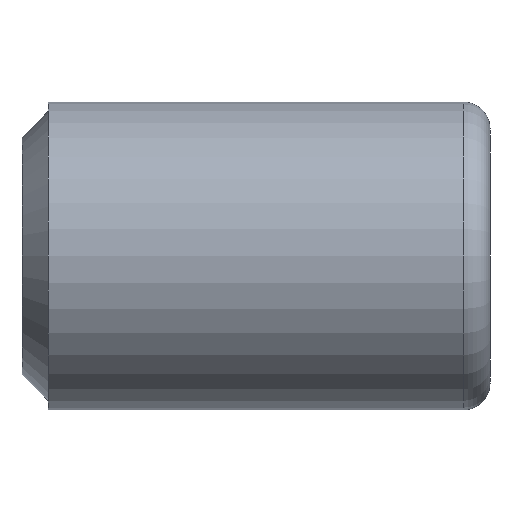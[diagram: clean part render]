
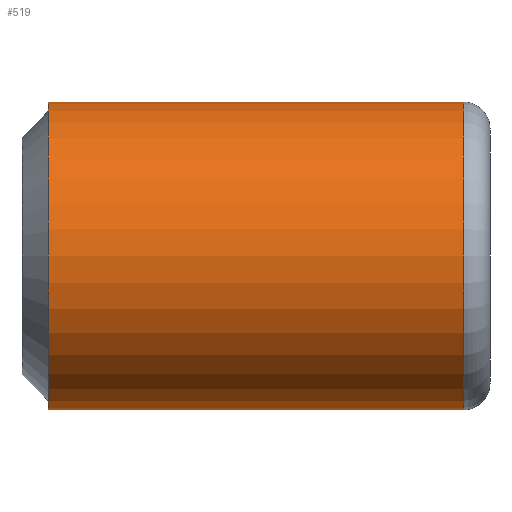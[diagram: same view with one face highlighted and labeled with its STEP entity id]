
A CAD part, front view. The second image highlights one B-rep face of the part: STEP entity #519.
In plain terms, the highlighted cylindrical face has radius 11.087 mm (diameter 22.174 mm), a partial arc.
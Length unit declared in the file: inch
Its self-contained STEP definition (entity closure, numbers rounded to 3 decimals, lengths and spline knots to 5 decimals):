
#12 = DIRECTION ( 'NONE',  ( 0., 0., 1. ) ) ;
#14 = LINE ( 'NONE', #816, #753 ) ;
#31 = CYLINDRICAL_SURFACE ( 'NONE', #159, 0.4365 ) ;
#70 = VERTEX_POINT ( 'NONE', #590 ) ;
#82 = EDGE_CURVE ( 'NONE', #70, #650, #918, .T. ) ;
#91 = EDGE_CURVE ( 'NONE', #209, #650, #14, .T. ) ;
#114 = CARTESIAN_POINT ( 'NONE',  ( 0., 0., -0.4365 ) ) ;
#159 = AXIS2_PLACEMENT_3D ( 'NONE', #314, #682, #917 ) ;
#209 = VERTEX_POINT ( 'NONE', #495 ) ;
#212 = ORIENTED_EDGE ( 'NONE', *, *, #82, .F. ) ;
#233 = DIRECTION ( 'NONE',  ( -1., 0., 0. ) ) ;
#248 = DIRECTION ( 'NONE',  ( -1., 0., 0. ) ) ;
#262 = AXIS2_PLACEMENT_3D ( 'NONE', #331, #410, #12 ) ;
#307 = CARTESIAN_POINT ( 'NONE',  ( 0.07474, 0., 0. ) ) ;
#314 = CARTESIAN_POINT ( 'NONE',  ( 0., 0., 0. ) ) ;
#316 = LINE ( 'NONE', #114, #477 ) ;
#331 = CARTESIAN_POINT ( 'NONE',  ( 1.25174, 0., 0. ) ) ;
#349 = EDGE_CURVE ( 'NONE', #418, #209, #734, .T. ) ;
#410 = DIRECTION ( 'NONE',  ( -1., 0., 0. ) ) ;
#418 = VERTEX_POINT ( 'NONE', #568 ) ;
#429 = CARTESIAN_POINT ( 'NONE',  ( 0.07474, 0., 0.4365 ) ) ;
#442 = ORIENTED_EDGE ( 'NONE', *, *, #349, .T. ) ;
#477 = VECTOR ( 'NONE', #604, 39.37008 ) ;
#495 = CARTESIAN_POINT ( 'NONE',  ( 1.25174, 0., 0.4365 ) ) ;
#516 = ORIENTED_EDGE ( 'NONE', *, *, #882, .F. ) ;
#519 = ADVANCED_FACE ( 'NONE', ( #621 ), #31, .T. ) ;
#568 = CARTESIAN_POINT ( 'NONE',  ( 1.25174, 0., -0.4365 ) ) ;
#590 = CARTESIAN_POINT ( 'NONE',  ( 0.07474, 0., -0.4365 ) ) ;
#596 = DIRECTION ( 'NONE',  ( 0., 0., 1. ) ) ;
#604 = DIRECTION ( 'NONE',  ( -1., 0., 0. ) ) ;
#621 = FACE_OUTER_BOUND ( 'NONE', #661, .T. ) ;
#650 = VERTEX_POINT ( 'NONE', #429 ) ;
#661 = EDGE_LOOP ( 'NONE', ( #516, #442, #726, #212 ) ) ;
#682 = DIRECTION ( 'NONE',  ( -1., 0., 0. ) ) ;
#726 = ORIENTED_EDGE ( 'NONE', *, *, #91, .T. ) ;
#734 = CIRCLE ( 'NONE', #262, 0.4365 ) ;
#753 = VECTOR ( 'NONE', #233, 39.37008 ) ;
#816 = CARTESIAN_POINT ( 'NONE',  ( 0., 0., 0.4365 ) ) ;
#843 = AXIS2_PLACEMENT_3D ( 'NONE', #307, #248, #596 ) ;
#882 = EDGE_CURVE ( 'NONE', #418, #70, #316, .T. ) ;
#917 = DIRECTION ( 'NONE',  ( 0., 0., 1. ) ) ;
#918 = CIRCLE ( 'NONE', #843, 0.4365 ) ;
